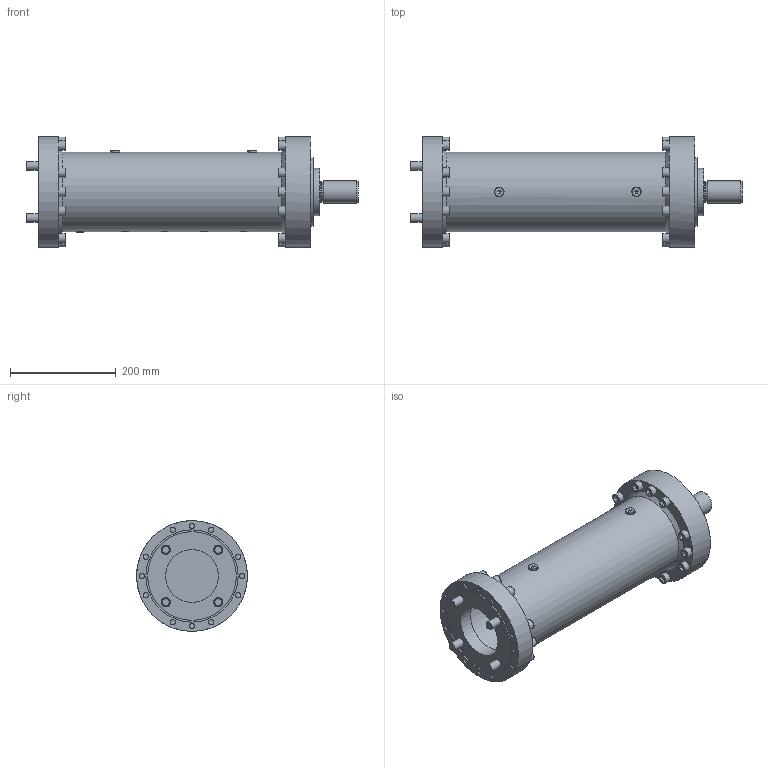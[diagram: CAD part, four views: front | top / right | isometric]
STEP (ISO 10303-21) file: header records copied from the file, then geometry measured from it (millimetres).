
FILE_DESCRIPTION((''),'2;1');
FILE_NAME('Open CASCADE Shape Model','2020-05-13T09:00:59',('cad'),(''), 'Open CASCADE STEP processor 7.3','Autodesk Inventor 2013','Unknown');
FILE_SCHEMA(('AUTOMOTIVE_DESIGN_CC2 { 1 2 10303 214 -1 1 5 4 }'));
Length unit declared in the file: millimetre
Products named in the file (1): LD.1..
Bounding box: 629.2 x 210 x 210 mm (x, y, z)
Volume: 5367391.5 mm3; surface area: 713677.7 mm2
Topology: 1 solids, 41 shells, 782 faces, 1722 edges, 1140 vertices
Faces by surface type: plane 427, cylinder 215, cone 92, torus 40, bspline 8
Full cylindrical faces by diameter (mm): 4 x3, 6 x2, 8 x5, 8.2 x5, 9 x5, 10.106 x24, 10.376 x4, 12 x24, 12.2 x2, 12.5 x24, 13 x29, 14 x5, 15 x5, 16 x4, 17 x6, 17.294 x4, 17.5 x4, 18 x26, 24 x4, 26 x4, 37.6 x1, 42 x1, 90 x1, 100 x1, 115 x1, 125 x1, 129 x1, 130 x1, 134 x4, 139 x2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
Entity records: 26578 total; most frequent: CARTESIAN_POINT 5260, ORIENTED_EDGE 3346, DIRECTION 3290, EDGE_CURVE 1673, AXIS2_PLACEMENT_3D 1424, VERTEX_POINT 1140, FACE_BOUND 1009, EDGE_LOOP 1009
